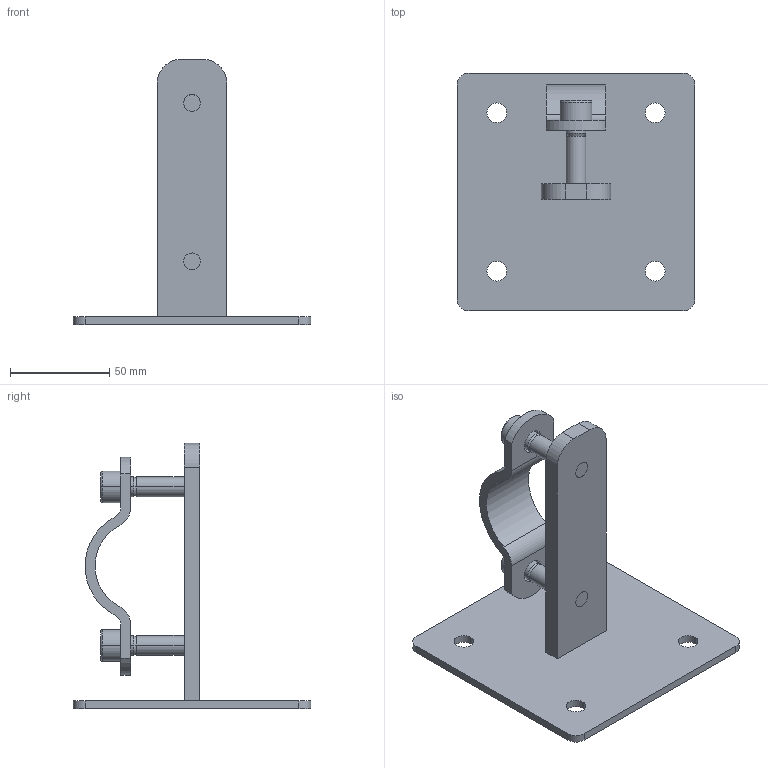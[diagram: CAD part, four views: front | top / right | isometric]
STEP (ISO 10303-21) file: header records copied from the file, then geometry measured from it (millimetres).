
FILE_DESCRIPTION (( 'STEP AP203' ), '1' );
FILE_NAME ('ST50.STEP', '2009-10-23T16:15:42', ( 'CEDIA' ), ( 'CEDIA INDUSTRIE' ), 'SwSTEP 2.0', 'SolidWorks 2009', '' );
FILE_SCHEMA (( 'CONFIG_CONTROL_DESIGN' ));
Length unit declared in the file: millimetre
Products named in the file (6): ST50-002; ST50; ST50-001; ST50-001_REPA; ST50-001_REPB; chc m10 x 40-cl8.8
Assembly tree (6 placements, depth 3):
  ST50
    ST50-002
    chc m10 x 40-cl8.8  x2
    ST50-001
      ST50-001_REPA
      ST50-001_REPB
Bounding box: 120 x 120 x 134 mm (x, y, z)
Volume: 117474 mm3; surface area: 55307.4 mm2
Topology: 5 solids, 5 shells, 100 faces, 238 edges, 150 vertices
Faces by surface type: cylinder 42, plane 38, cone 12, torus 8
Entity records: 2930 total; most frequent: CARTESIAN_POINT 427, DIRECTION 426, ORIENTED_EDGE 360, EDGE_CURVE 180, AXIS2_PLACEMENT_3D 168, VERTEX_POINT 117, EDGE_LOOP 93, VECTOR 90
